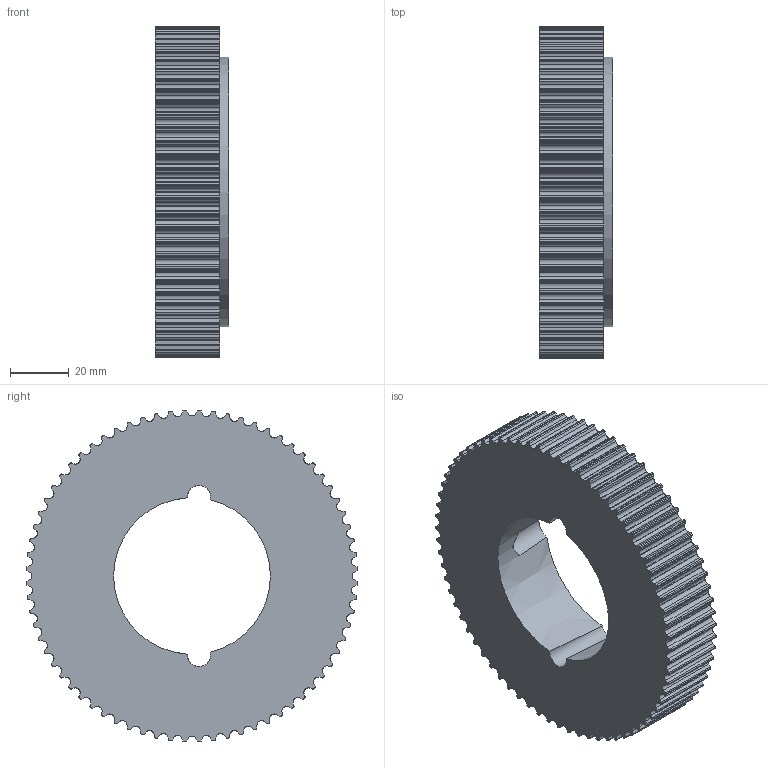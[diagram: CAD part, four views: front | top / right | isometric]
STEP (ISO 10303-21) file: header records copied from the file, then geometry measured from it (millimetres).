
FILE_DESCRIPTION( ( 'STEP AP203' ), '1' );
FILE_NAME( 'C:/Users/Stangenbergd/Documents/CAD_Step/1/17277372.stp', '2020-09-13T17:39:17', ( 'License CC BY-ND 4.0' ), ( 'CADENAS' ), ' ', 'PARTsolutions', ' ' );
FILE_SCHEMA( ( 'CONFIG_CONTROL_DESIGN' ) );
Length unit declared in the file: millimetre
Products named in the file (1): _17277372
Bounding box: 25 x 113.36 x 113.36 mm (x, y, z)
Volume: 171656 mm3; surface area: 30949.3 mm2
Topology: 1 solids, 1 shells, 586 faces, 1749 edges, 1166 vertices
Faces by surface type: cylinder 364, plane 219, cone 3
Full cylindrical faces by diameter (mm): 92 x1
Entity records: 20082 total; most frequent: DIRECTION 3648, CARTESIAN_POINT 3548, ORIENTED_EDGE 3496, EDGE_CURVE 1748, AXIS2_PLACEMENT_3D 1320, VERTEX_POINT 1166, LINE 1008, VECTOR 1008
